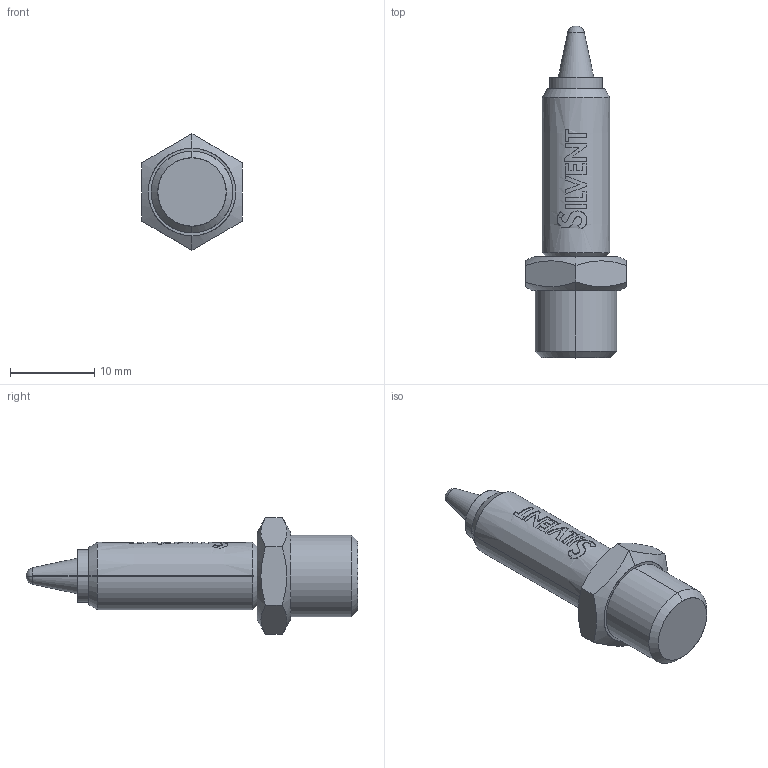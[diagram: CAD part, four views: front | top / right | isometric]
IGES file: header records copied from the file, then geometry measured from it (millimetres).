
Start section: SolidWorks IGES FILE using analytic representation for surfaces
Global section: file name: G:\Silvent\Ritningar\Övrigt\IGES\Silvent 011.IGS; native system: SolidWorks 2003 by SolidWorks Corporation; preprocessor: Version 5.3; author: Ulf; date: 030923.111607; units: millimetre
Bounding box: 12 x 39.47 x 13.86 mm (x, y, z)
Surface area: 1188.6 mm2 (no closed solid volume)
Topology: 0 solids, 0 shells, 161 faces, 1420 edges, 1418 vertices
Faces by surface type: revolution 102, bspline 59
